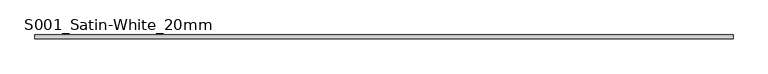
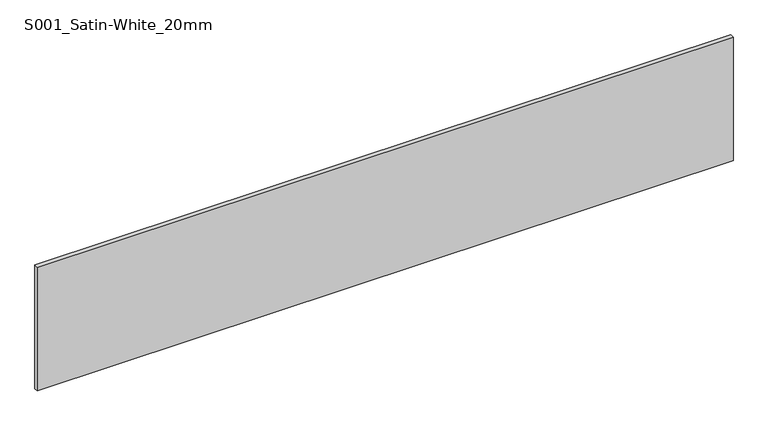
"""IFC4 building model written with IfcOpenShell, lengths in millimetres: plate geometry, Curtain-Panels_Outdoor-Material_HI-MACS_Solids : S001_Satin-White_20mm."""

from ifc_helpers import new_model, si_unit, origin, origin_with_axes, place, context, project, spatial, polyline, outline, extrude, source, transform, mapped, element, save


def s001_satin_white_20mm_bdc0227d(model_context):
    return source(origin(), model_context, "Body", "SweptSolid", [
        extrude(outline(polyline([(1840.0, 10.0), (1840.0, -10.0), (-1840.0, -10.0), (-1840.0, 10.0), (1840.0, 10.0)])), origin_with_axes(), (0.0, 0.0, 1.0), 691.9591718),
    ])


if __name__ == "__main__":
    model = new_model("IFC4")
    model_context = context("Model", 3, world=origin())
    ifc_project = project(units=[si_unit("LENGTHUNIT", "METRE", prefix="MILLI")], contexts=[model_context])
    site = spatial("IfcSite", under=ifc_project)
    building = spatial("IfcBuilding", under=site)
    placement = place(None, origin())
    s001_satin_white_20mm_shape = s001_satin_white_20mm_bdc0227d(model_context)
    element("IfcPlate", 1, ObjectType="Curtain-Panels_Outdoor-Material_HI-MACS_Solids : S001_Satin-White_20mm", at=placement, inside=building, context=model_context, shape_type="MappedRepresentation", body=[
        mapped(s001_satin_white_20mm_shape, transform((0.0, 0.0, 0.0), x_axis=(1.0, 0.0, 0.0), y_axis=(0.0, 1.0, 0.0), z_axis=(0.0, 0.0, 1.0))),
    ])
    save(model, "model.ifc")
